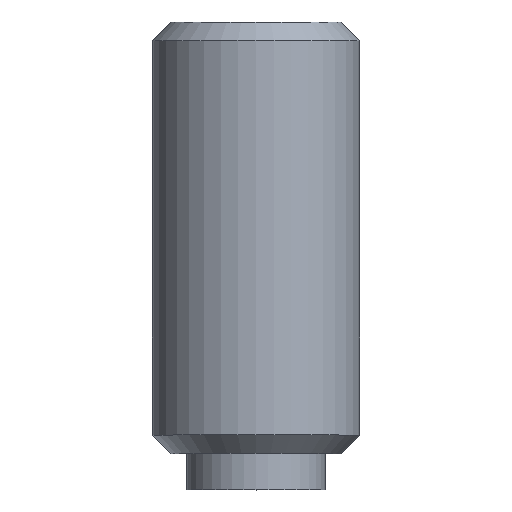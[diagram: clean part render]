
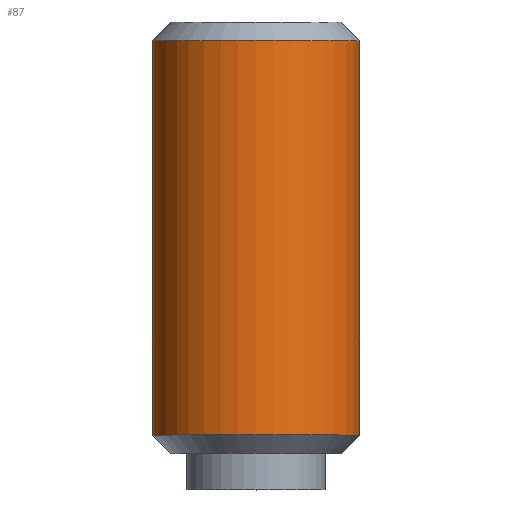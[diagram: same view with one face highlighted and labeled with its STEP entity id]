
A CAD part, top view. The second image highlights one B-rep face of the part: STEP entity #87.
In plain terms, the highlighted cylindrical face has radius 6 mm (diameter 12 mm), a full revolution.
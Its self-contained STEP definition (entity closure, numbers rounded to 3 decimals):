
#87 = ADVANCED_FACE( '', ( #118, #119 ), #120, .T. );
#118 = FACE_OUTER_BOUND( '', #152, .T. );
#119 = FACE_OUTER_BOUND( '', #153, .T. );
#120 = CYLINDRICAL_SURFACE( '', #154, 6. );
#152 = EDGE_LOOP( '', ( #238 ) );
#153 = EDGE_LOOP( '', ( #239 ) );
#154 = AXIS2_PLACEMENT_3D( '', #240, #241, #242 );
#238 = ORIENTED_EDGE( '', *, *, #270, .F. );
#239 = ORIENTED_EDGE( '', *, *, #271, .T. );
#240 = CARTESIAN_POINT( '', ( 0., 0., 0. ) );
#241 = DIRECTION( '', ( 0., 1., 0. ) );
#242 = DIRECTION( '', ( 0., 0., -1. ) );
#270 = EDGE_CURVE( '', #310, #310, #311, .T. );
#271 = EDGE_CURVE( '', #312, #312, #313, .T. );
#310 = VERTEX_POINT( '', #370 );
#311 = CIRCLE( '', #371, 6. );
#312 = VERTEX_POINT( '', #372 );
#313 = CIRCLE( '', #373, 6. );
#370 = CARTESIAN_POINT( '', ( 0., 3.174, -6. ) );
#371 = AXIS2_PLACEMENT_3D( '', #404, #405, #406 );
#372 = CARTESIAN_POINT( '', ( 0., 26.027, -6. ) );
#373 = AXIS2_PLACEMENT_3D( '', #407, #408, #409 );
#404 = CARTESIAN_POINT( '', ( 0., 3.174, 0. ) );
#405 = DIRECTION( '', ( 0., -1., 0. ) );
#406 = DIRECTION( '', ( 0., 0., -1. ) );
#407 = CARTESIAN_POINT( '', ( 0., 26.027, 0. ) );
#408 = DIRECTION( '', ( 0., -1., 0. ) );
#409 = DIRECTION( '', ( 0., 0., -1. ) );
